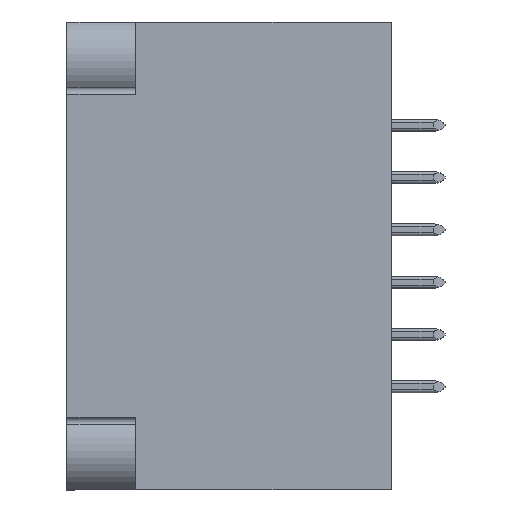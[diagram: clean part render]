
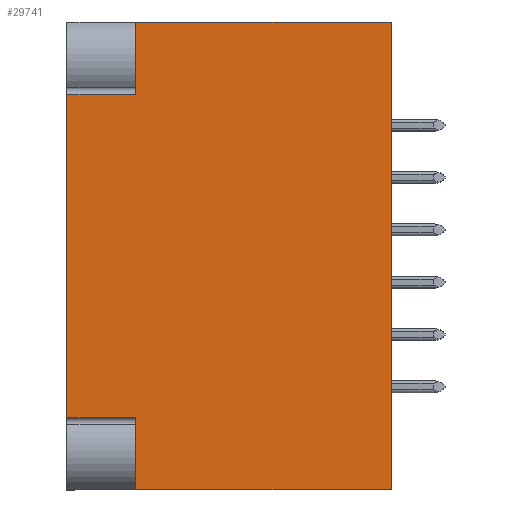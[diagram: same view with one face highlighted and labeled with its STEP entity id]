
A CAD part, left-side view. The second image highlights one B-rep face of the part: STEP entity #29741.
In plain terms, the highlighted planar face has unit normal (-1, 0, 0).
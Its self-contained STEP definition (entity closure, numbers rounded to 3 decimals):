
#41 = AXIS2_PLACEMENT_3D ( 'NONE', #18663, #22980, #6997 ) ;
#100 = CARTESIAN_POINT ( 'NONE',  ( -20.9, 17.1, -5.15 ) ) ;
#1262 = EDGE_CURVE ( 'NONE', #64920, #3964, #10172, .T. ) ;
#2431 = DIRECTION ( 'NONE',  ( 0., 0., -1. ) ) ;
#2611 = LINE ( 'NONE', #7662, #13670 ) ;
#3964 = VERTEX_POINT ( 'NONE', #25517 ) ;
#4937 = FACE_OUTER_BOUND ( 'NONE', #29559, .T. ) ;
#5791 = DIRECTION ( 'NONE',  ( 0., 0., -1. ) ) ;
#6899 = EDGE_CURVE ( 'NONE', #3964, #36218, #55358, .T. ) ;
#6997 = DIRECTION ( 'NONE',  ( 0., 1., 0. ) ) ;
#7662 = CARTESIAN_POINT ( 'NONE',  ( -20.9, 12.5, 0. ) ) ;
#9209 = CARTESIAN_POINT ( 'NONE',  ( -20.9, 12.5, -31.3 ) ) ;
#9719 = LINE ( 'NONE', #100, #17437 ) ;
#9924 = CARTESIAN_POINT ( 'NONE',  ( -20.9, 12.5, -4.85 ) ) ;
#10172 = LINE ( 'NONE', #9209, #19572 ) ;
#11460 = VECTOR ( 'NONE', #22092, 1000. ) ;
#13670 = VECTOR ( 'NONE', #68230, 1000. ) ;
#13779 = ORIENTED_EDGE ( 'NONE', *, *, #15549, .T. ) ;
#14576 = EDGE_CURVE ( 'NONE', #50549, #68589, #21017, .T. ) ;
#15549 = EDGE_CURVE ( 'NONE', #68589, #53921, #29363, .T. ) ;
#15711 = ORIENTED_EDGE ( 'NONE', *, *, #38370, .T. ) ;
#17437 = VECTOR ( 'NONE', #5791, 1000. ) ;
#17673 = CARTESIAN_POINT ( 'NONE',  ( -20.9, 21.7, -4.85 ) ) ;
#18663 = CARTESIAN_POINT ( 'NONE',  ( -20.9, 12.5, 1.85 ) ) ;
#19275 = VERTEX_POINT ( 'NONE', #34863 ) ;
#19572 = VECTOR ( 'NONE', #47169, 1000. ) ;
#19955 = DIRECTION ( 'NONE',  ( 0., 1., 0. ) ) ;
#20078 = ORIENTED_EDGE ( 'NONE', *, *, #28859, .T. ) ;
#21017 = LINE ( 'NONE', #9924, #56009 ) ;
#22092 = DIRECTION ( 'NONE',  ( 0., -1., 0. ) ) ;
#22980 = DIRECTION ( 'NONE',  ( -1., 0., 0. ) ) ;
#23628 = ORIENTED_EDGE ( 'NONE', *, *, #14576, .T. ) ;
#23886 = EDGE_CURVE ( 'NONE', #36218, #52841, #2611, .T. ) ;
#25086 = ORIENTED_EDGE ( 'NONE', *, *, #23886, .T. ) ;
#25517 = CARTESIAN_POINT ( 'NONE',  ( -20.9, 0., -31.3 ) ) ;
#28859 = EDGE_CURVE ( 'NONE', #52841, #50549, #9719, .T. ) ;
#29363 = LINE ( 'NONE', #63469, #61809 ) ;
#29400 = PLANE ( 'NONE',  #41 ) ;
#29559 = EDGE_LOOP ( 'NONE', ( #13779, #45811, #15711, #60802, #30778, #25086, #20078, #23628 ) ) ;
#29741 = ADVANCED_FACE ( 'NONE', ( #4937 ), #29400, .T. ) ;
#30778 = ORIENTED_EDGE ( 'NONE', *, *, #6899, .T. ) ;
#34863 = CARTESIAN_POINT ( 'NONE',  ( -20.9, 17.1, -26.45 ) ) ;
#36218 = VERTEX_POINT ( 'NONE', #44987 ) ;
#37088 = LINE ( 'NONE', #53592, #11460 ) ;
#38370 = EDGE_CURVE ( 'NONE', #19275, #64920, #40854, .T. ) ;
#39525 = CARTESIAN_POINT ( 'NONE',  ( -20.9, 0., 1.85 ) ) ;
#40169 = CARTESIAN_POINT ( 'NONE',  ( -20.9, 17.1, 1.85 ) ) ;
#40854 = LINE ( 'NONE', #40169, #53662 ) ;
#44987 = CARTESIAN_POINT ( 'NONE',  ( -20.9, 0., 0. ) ) ;
#45811 = ORIENTED_EDGE ( 'NONE', *, *, #51326, .T. ) ;
#47169 = DIRECTION ( 'NONE',  ( 0., -1., 0. ) ) ;
#50364 = CARTESIAN_POINT ( 'NONE',  ( -20.9, 17.1, -31.3 ) ) ;
#50549 = VERTEX_POINT ( 'NONE', #52809 ) ;
#50914 = CARTESIAN_POINT ( 'NONE',  ( -20.9, 17.1, 0. ) ) ;
#51326 = EDGE_CURVE ( 'NONE', #53921, #19275, #37088, .T. ) ;
#52809 = CARTESIAN_POINT ( 'NONE',  ( -20.9, 17.1, -4.85 ) ) ;
#52841 = VERTEX_POINT ( 'NONE', #50914 ) ;
#53592 = CARTESIAN_POINT ( 'NONE',  ( -20.9, 12.5, -26.45 ) ) ;
#53662 = VECTOR ( 'NONE', #2431, 1000. ) ;
#53921 = VERTEX_POINT ( 'NONE', #66704 ) ;
#55358 = LINE ( 'NONE', #39525, #62999 ) ;
#55963 = DIRECTION ( 'NONE',  ( 0., 0., 1. ) ) ;
#56009 = VECTOR ( 'NONE', #19955, 1000. ) ;
#58460 = DIRECTION ( 'NONE',  ( 0., 0., -1. ) ) ;
#60802 = ORIENTED_EDGE ( 'NONE', *, *, #1262, .T. ) ;
#61809 = VECTOR ( 'NONE', #58460, 1000. ) ;
#62999 = VECTOR ( 'NONE', #55963, 1000. ) ;
#63469 = CARTESIAN_POINT ( 'NONE',  ( -20.9, 21.7, 1.85 ) ) ;
#64920 = VERTEX_POINT ( 'NONE', #50364 ) ;
#66704 = CARTESIAN_POINT ( 'NONE',  ( -20.9, 21.7, -26.45 ) ) ;
#68230 = DIRECTION ( 'NONE',  ( 0., 1., 0. ) ) ;
#68589 = VERTEX_POINT ( 'NONE', #17673 ) ;
